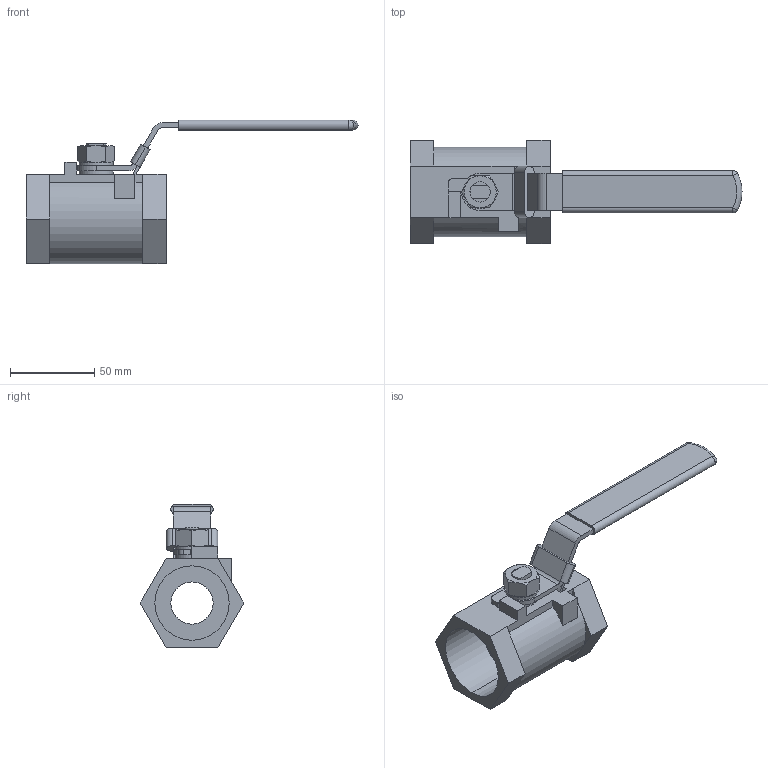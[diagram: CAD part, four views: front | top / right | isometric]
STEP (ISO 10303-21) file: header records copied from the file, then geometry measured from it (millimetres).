
FILE_DESCRIPTION( (''), '2;1');
FILE_NAME ('PC1276.13404.BLV-1S 40A_17635.stp','2025-09-19T13:29:47',(''),(''),'spGate 20.6.3 (****-****-****-****)','','');
FILE_SCHEMA (('AUTOMOTIVE_DESIGN'));
Length unit declared in the file: millimetre
Products named in the file (5): Assembly; CP_''_JIS B 1256 小形-部品等級A 1''_17239; CP_''_JIS B 1181 六角ナット 2種 上 ''_700; BLV-1S 50A ハンドル; BLV-1S 40A 本体
Assembly tree (5 placements, depth 2):
  Assembly
    CP_''_JIS B 1256 小形-部品等級A 1''_17239  x2
    CP_''_JIS B 1181 六角ナット 2種 上 ''_700
    BLV-1S 50A ハンドル
    BLV-1S 40A 本体
Bounding box: 196.5 x 61.2 x 85 mm (x, y, z)
Volume: 116370.1 mm3; surface area: 43674.5 mm2
Topology: 5 solids, 5 shells, 137 faces, 334 edges, 208 vertices
Faces by surface type: plane 83, cylinder 39, bspline 13, sphere 2
Entity records: 6711 total; most frequent: CARTESIAN_POINT 939, ORIENTED_EDGE 636, DIRECTION 632, COLOUR_RGB 453, PRESENTATION_STYLE_ASSIGNMENT 453, STYLED_ITEM 453, EDGE_CURVE 318, DRAUGHTING_PRE_DEFINED_CURVE_FONT 318
